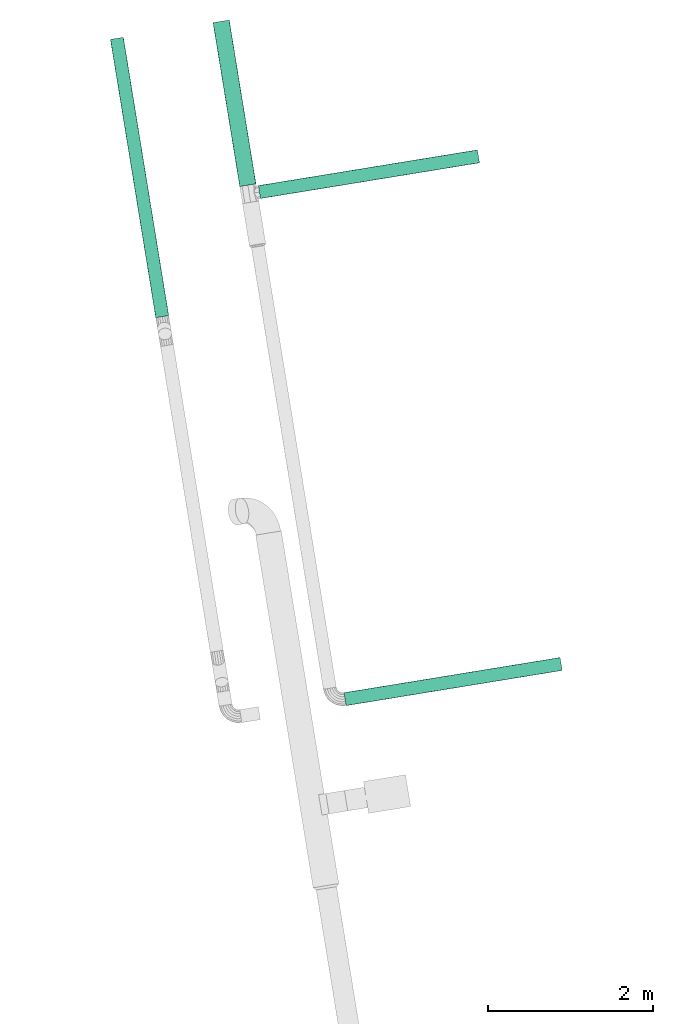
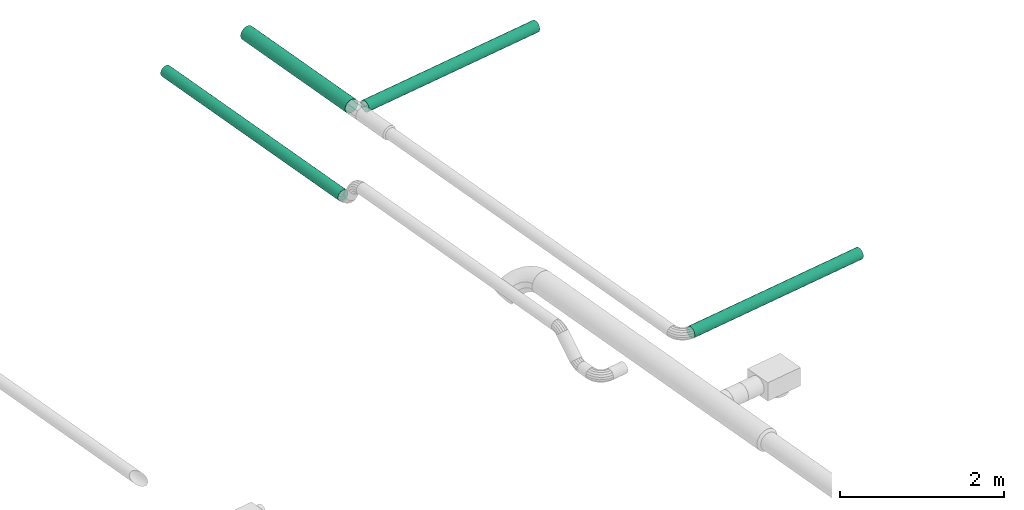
# One storey, part 10 of 19: 4 flow segments.
"""IFC2X3 building model written with IfcOpenShell, lengths in millimetres."""

import ifcopenshell
import ifcopenshell.guid

model = None  # the IFC model being written
_history = None  # IfcOwnerHistory: only IFC2X3 demands one
_inside = {}  # id of a spatial element -> (the spatial element, [elements in it])
_under = {}  # id of a project, library or spatial element -> (it, [spatial elements below it])
_declared = {}  # id of a project -> (the project, [libraries it declares])
_typed = {}  # id of a type object -> (the type object, [elements of that type])
_made_of = {}  # id of a material, layer set ... -> (it, [elements and type objects made of it])


def new_model(schema):
    """Start an empty IFC model of exactly this schema.

    Asked for "IFC4X3", IfcOpenShell would pick the latest addendum, in which some entities
    have other attributes; the version numbers below select the first issue.
    IFC2X3 requires an IfcOwnerHistory on every rooted entity: one is made here for all.
    """
    global model, _history
    if schema == "IFC4X3":
        model = ifcopenshell.file(schema_version=(4, 3, 0, 0))
    else:
        model = ifcopenshell.file(schema=schema)
    _inside.clear()
    _under.clear()
    _declared.clear()
    _typed.clear()
    _made_of.clear()
    _history = None
    if model.schema == "IFC2X3":
        org = make("IfcOrganization", Name="unknown")
        user = make(
            "IfcPersonAndOrganization",
            ThePerson=make("IfcPerson", FamilyName="unknown"),
            TheOrganization=org,
        )
        app = make(
            "IfcApplication",
            ApplicationDeveloper=org,
            Version="unknown",
            ApplicationFullName="unknown",
            ApplicationIdentifier="unknown",
        )
        _history = make(
            "IfcOwnerHistory",
            OwningUser=user,
            OwningApplication=app,
            ChangeAction="ADDED",
            CreationDate=0,
        )
    return model


def make(cls, **values):
    """One entity of the class cls with the attributes given. An attribute that is None is left unset."""
    return model.create_entity(
        cls, **{name: value for name, value in values.items() if value is not None}
    )


def entity(cls, *values):
    """Any entity or typed value of the class cls, its attributes in the order of the schema. None: left unset."""
    e = model.create_entity(cls)
    for i, value in enumerate(values):
        if value is not None:
            e[i] = value
    return e


def rooted(cls, **values):
    """An entity with a GlobalId (a new one), such as an element, a storey or a relation."""
    return make(cls, GlobalId=ifcopenshell.guid.new(), OwnerHistory=_history, **values)


def si_unit(unit_type, name, prefix=None):
    """IfcSIUnit, for example si_unit("LENGTHUNIT", "METRE", prefix="MILLI")."""
    return make("IfcSIUnit", UnitType=unit_type, Prefix=prefix, Name=name)


def converted_unit(unit_type, name, factor, base, dimensions=None, offset=None):
    """IfcConversionBasedUnit, such as the inch: factor (a typed value) times the base unit."""
    return make(
        "IfcConversionBasedUnit"
        if offset is None
        else "IfcConversionBasedUnitWithOffset",
        ConversionOffset=offset,
        Dimensions=None
        if dimensions is None
        else entity("IfcDimensionalExponents", *dimensions),
        UnitType=unit_type,
        Name=name,
        ConversionFactor=make(
            "IfcMeasureWithUnit", ValueComponent=factor, UnitComponent=base
        ),
    )


def derived_unit(unit_type, elements):
    """IfcDerivedUnit: a product of units, each with its exponent."""
    return make(
        "IfcDerivedUnit",
        Elements=[
            make("IfcDerivedUnitElement", Unit=unit, Exponent=power)
            for unit, power in elements
        ],
        UnitType=unit_type,
    )


def assignment(units):
    """IfcUnitAssignment: the units of a project."""
    return None if units is None else make("IfcUnitAssignment", Units=units)


def point(xyz):
    """IfcCartesianPoint."""
    return None if xyz is None else make("IfcCartesianPoint", Coordinates=xyz)


def direction(xyz):
    """IfcDirection."""
    return None if xyz is None else make("IfcDirection", DirectionRatios=xyz)


def frame(location, z_axis=None, x_axis=None):
    """IfcAxis2Placement3D, a coordinate frame: its origin and axes. An axis left out is left unset."""
    return make(
        "IfcAxis2Placement3D",
        Location=point(location),
        Axis=direction(z_axis),
        RefDirection=direction(x_axis),
    )


def origin():
    """The frame at (0, 0, 0) with its axes left unset."""
    return frame((0.0, 0.0, 0.0))


def origin_with_axes():
    """The frame at (0, 0, 0) with the z axis (0, 0, 1) and the x axis (1, 0, 0) written out."""
    return frame((0.0, 0.0, 0.0), z_axis=(0.0, 0.0, 1.0), x_axis=(1.0, 0.0, 0.0))


def place(relative_to, where):
    """IfcLocalPlacement: puts the frame where relative to a parent placement (None: the world)."""
    return make(
        "IfcLocalPlacement", PlacementRelTo=relative_to, RelativePlacement=where
    )


def context(
    kind, dimensions, precision=None, world=None, true_north=None, identifier=None
):
    """IfcGeometricRepresentationContext, for example the 3D "Model" context."""
    return make(
        "IfcGeometricRepresentationContext",
        ContextIdentifier=identifier,
        ContextType=kind,
        CoordinateSpaceDimension=dimensions,
        Precision=precision,
        WorldCoordinateSystem=world,
        TrueNorth=true_north,
    )


def subcontext(parent, identifier, kind, view, scale=None):
    """IfcGeometricRepresentationSubContext, for example "Body" below "Model"."""
    return make(
        "IfcGeometricRepresentationSubContext",
        ContextIdentifier=identifier,
        ContextType=kind,
        ParentContext=parent,
        TargetScale=scale,
        TargetView=view,
    )


def project(units=None, contexts=None):
    """IfcProject with its units and contexts."""
    return rooted(
        "IfcProject",
        Name="project",
        RepresentationContexts=contexts,
        UnitsInContext=assignment(units),
    )


def spatial(cls, under=None, at=None, **own):
    """A site, building, storey or space (cls), placed at a placement, below another one or the project."""
    s = rooted(cls, ObjectPlacement=at, **own)
    if under is not None:
        _under.setdefault(under.id(), (under, []))[1].append(s)
    return s


def faces_of(points, faces, orient=None, outer=None):
    """IfcFace entities. A face is a list of loops; a loop is a list of indices into points, from 0.

    orient and outer hold one flag for each loop. By default every Orientation is true, the
    first loop of a face is its IfcFaceOuterBound and the others are IfcFaceBound.
    """
    made = []
    for i, loops in enumerate(faces):
        bounds = []
        for j, loop in enumerate(loops):
            is_outer = j == 0 if outer is None else outer[i][j]
            bounds.append(
                make(
                    "IfcFaceOuterBound" if is_outer else "IfcFaceBound",
                    Bound=make("IfcPolyLoop", Polygon=[points[k] for k in loop]),
                    Orientation=True if orient is None else orient[i][j],
                )
            )
        made.append(make("IfcFace", Bounds=bounds))
    return made


def faceted_brep(points, faces, orient=None, outer=None, voids=None):
    """IfcFacetedBrep: a solid bounded by flat faces; with voids (closed shells), ...WithVoids."""
    shared = [point(p) for p in points]
    hull = make("IfcClosedShell", CfsFaces=faces_of(shared, faces, orient, outer))
    if voids is None:
        return make("IfcFacetedBrep", Outer=hull)
    return make(
        "IfcFacetedBrepWithVoids",
        Outer=hull,
        Voids=[
            make(cls, CfsFaces=faces_of(shared, fs, o, b)) for cls, fs, o, b in voids
        ],
    )


def shape(context_of_items, identifier, shape_type, items):
    """IfcShapeRepresentation: the items that make up one representation, for example the "Body"."""
    return make(
        "IfcShapeRepresentation",
        ContextOfItems=context_of_items,
        RepresentationIdentifier=identifier,
        RepresentationType=shape_type,
        Items=items,
    )


def material(Name=None, Category=None):
    """IfcMaterial."""
    return make("IfcMaterial", Name=Name, Category=Category)


def made_of(thing, what):
    """Note that an element or type object is made of a material, layer set ...; save() writes the relation."""
    if what is not None:
        _made_of.setdefault(what.id(), (what, []))[1].append(thing)
    return thing


def type_object(cls, material=None, **own):
    """A type object (cls), such as IfcWallType, which elements share."""
    return made_of(rooted(cls, **own), material)


def element(
    cls,
    number,
    at=None,
    inside=None,
    cuts=None,
    type_object=None,
    material=None,
    context=None,
    identifier="Body",
    shape_type=None,
    held_by="IfcProductDefinitionShape",
    body=None,
    shapes=None,
    **own,
):
    """One element of the class cls, such as IfcWall. Its Tag is "e" and its number.

    at: its placement. inside: the storey or other place that contains it. cuts: it is an
    opening in that element (IfcRelVoidsElement). A single representation is given by context,
    identifier, shape_type and body (its items); several are given by shapes. held_by: the class
    of the entity that holds the representations. save() writes the other relations.
    """
    e = rooted(cls, Tag="e%d" % number, ObjectPlacement=at, **own)
    if body is not None:
        shapes = [shape(context, identifier, shape_type, body)]
    if shapes is not None:
        e.Representation = make(held_by, Representations=shapes)
    if inside is not None:
        _inside.setdefault(inside.id(), (inside, []))[1].append(e)
    if cuts is not None:
        rooted(
            "IfcRelVoidsElement", RelatingBuildingElement=cuts, RelatedOpeningElement=e
        )
    if type_object is not None:
        _typed.setdefault(type_object.id(), (type_object, []))[1].append(e)
    return made_of(e, material)


def aggregate(whole, parts):
    """IfcRelAggregates: a whole, such as a stair, and the parts it consists of."""
    return rooted("IfcRelAggregates", RelatingObject=whole, RelatedObjects=parts)


def save(model, path):
    """Write the relations noted so far, then the file.

    IfcRelAggregates (storeys below a building ...), IfcRelContainedInSpatialStructure (elements
    in a storey), IfcRelDefinesByType, IfcRelAssociatesMaterial and IfcRelDeclares: one each for
    every whole, place, type object, material and project.
    """
    for whole, parts in _under.values():
        aggregate(whole, parts)
    for where, things in _inside.values():
        rooted(
            "IfcRelContainedInSpatialStructure",
            RelatedElements=things,
            RelatingStructure=where,
        )
    for kind, things in _typed.values():
        rooted("IfcRelDefinesByType", RelatedObjects=things, RelatingType=kind)
    for what, things in _made_of.values():
        rooted("IfcRelAssociatesMaterial", RelatedObjects=things, RelatingMaterial=what)
    for by, libraries in _declared.values():
        rooted("IfcRelDeclares", RelatingContext=by, RelatedDefinitions=libraries)
    model.write(path)


model = new_model("IFC2X3")

# Units and contexts
model_context = context("Model", 3, precision=0.01, world=origin(), true_north=direction((6.12323399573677e-17, 1.0)))
plan_context = context("Plan", 3, precision=1e-05, world=origin_with_axes())
body_context = subcontext(model_context, "Body", "Model", "MODEL_VIEW")
ifc_project = project(units=[converted_unit("PLANEANGLEUNIT", "DEGREE", entity("IfcPositiveLengthMeasure", 0.0174532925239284), si_unit("PLANEANGLEUNIT", "RADIAN"), dimensions=[0, 0, 0, 0, 0, 0, 0]), si_unit("AREAUNIT", "SQUARE_METRE"), si_unit("LENGTHUNIT", "METRE", prefix="MILLI"), si_unit("MASSUNIT", "GRAM", prefix="KILO"), si_unit("POWERUNIT", "WATT"), si_unit("PRESSUREUNIT", "PASCAL", prefix="KILO"), si_unit("FORCEUNIT", "NEWTON", prefix="KILO"), si_unit("ELECTRICVOLTAGEUNIT", "VOLT"), si_unit("ELECTRICCURRENTUNIT", "AMPERE"), si_unit("THERMODYNAMICTEMPERATUREUNIT", "DEGREE_CELSIUS"), si_unit("TIMEUNIT", "SECOND"), si_unit("VOLUMEUNIT", "CUBIC_METRE"), derived_unit("LINEARVELOCITYUNIT", [(si_unit("LENGTHUNIT", "METRE"), 1), (si_unit("TIMEUNIT", "SECOND"), -1)]), derived_unit("VOLUMETRICFLOWRATEUNIT", [(si_unit("VOLUMEUNIT", "CUBIC_METRE"), 1), (si_unit("TIMEUNIT", "SECOND"), -1)]), derived_unit("THERMALTRANSMITTANCEUNIT", [(si_unit("POWERUNIT", "WATT"), 1), (si_unit("THERMODYNAMICTEMPERATUREUNIT", "KELVIN"), -1), (si_unit("AREAUNIT", "SQUARE_METRE"), -1)]), derived_unit("SOUNDPRESSUREUNIT", [(si_unit("PRESSUREUNIT", "PASCAL"), 1)])], contexts=[model_context, plan_context])

# Site, building, storey
site_placement = place(None, frame((5.09380697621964e-08, 5.80416781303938e-08, 0.0), z_axis=(0.0, 0.0, 1.0), x_axis=(-0.160806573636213, 0.986985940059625, 0.0)))
site = spatial("IfcSite", under=ifc_project, at=site_placement, Name="Default", CompositionType="ELEMENT")
building_placement = place(site_placement, frame((0.0, 0.0, 0.0), z_axis=(0.0, 0.0, 1.0), x_axis=(1.0, -2.77555756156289e-17, 0.0)))
building = spatial("IfcBuilding", under=site, at=building_placement, Name="Bygning (endres i Project Information)", CompositionType="ELEMENT")
storey_placement = place(building_placement, frame((0.0, 0.0, 51360.0000000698), z_axis=(0.0, 0.0, 1.0), x_axis=(1.0, -2.77555756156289e-17, 0.0)))
storey = spatial("IfcBuildingStorey", under=building, at=storey_placement, Name="H01-Nivå D+0,36", CompositionType="ELEMENT", Elevation=51360.0000000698)

# Flow segments
ifc_material = material(Name="3601.001 Tilluft")
duct_segment_type = type_object("IfcDuctSegmentType", Name="Round Duct:Sirkulær kanal", PredefinedType="NOTDEFINED", material=ifc_material)
flow_segment_1_placement = place(storey_placement, frame((0.0, 0.0, 0.0), z_axis=(0.0, 0.0, 1.0), x_axis=(1.0, -2.77555756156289e-17, 0.0)))
element("IfcFlowSegment", 1, at=flow_segment_1_placement, inside=storey, type_object=duct_segment_type, Name="Round Duct:Sirkulær kanal", ObjectType="Round Duct:Sirkulær kanal", context=body_context, shape_type="Brep", body=[
    faceted_brep([(1016638.36764302, -392572.681756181, 3513.89185423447), (1016638.36764302, -392573.897135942, 3500.0), (1013229.23174799, -392573.897135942, 3500.0), (1013229.23174799, -392572.681756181, 3513.89185423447), (1016638.36764302, -392572.681756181, 3486.10814576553), (1013229.23174799, -392572.681756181, 3486.10814576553), (1016638.36764302, -392569.072545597, 3472.63838849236), (1013229.23174799, -392569.072545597, 3472.63838849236), (1016638.36764302, -392563.179168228, 3459.9999999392), (1013229.23174799, -392563.179168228, 3459.9999999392), (1016638.36764302, -392555.180691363, 3448.57699114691), (1013229.23174799, -392555.180691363, 3448.57699114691), (1016638.36764302, -392545.320144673, 3438.71644445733), (1013229.23174799, -392545.320144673, 3438.71644445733), (1016638.36764302, -392533.897135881, 3430.71796759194), (1013229.23174799, -392533.897135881, 3430.71796759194), (1016638.36764302, -392521.258747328, 3424.82459022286), (1013229.23174799, -392521.258747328, 3424.82459022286), (1016638.36764302, -392507.788990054, 3421.21537963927), (1013229.23174799, -392507.788990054, 3421.21537963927), (1016638.36764302, -392493.89713582, 3419.9999998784), (1013229.23174799, -392493.89713582, 3419.9999998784), (1016638.36764302, -392480.005281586, 3421.21537963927), (1013229.23174799, -392480.005281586, 3421.21537963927), (1016638.36764302, -392466.535524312, 3424.82459022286), (1013229.23174799, -392466.535524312, 3424.82459022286), (1016638.36764302, -392453.897135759, 3430.71796759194), (1013229.23174799, -392453.897135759, 3430.71796759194), (1016638.36764302, -392442.474126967, 3438.71644445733), (1013229.23174799, -392442.474126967, 3438.71644445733), (1016638.36764302, -392432.613580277, 3448.57699114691), (1013229.23174799, -392432.613580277, 3448.57699114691), (1016638.36764302, -392424.615103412, 3459.9999999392), (1013229.23174799, -392424.615103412, 3459.9999999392), (1016638.36764302, -392418.721726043, 3472.63838849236), (1013229.23174799, -392418.721726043, 3472.63838849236), (1016638.36764302, -392415.112515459, 3486.10814576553), (1013229.23174799, -392415.112515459, 3486.10814576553), (1016638.36764302, -392413.897135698, 3500.0), (1013229.23174799, -392413.897135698, 3500.0), (1016638.36764302, -392415.112515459, 3513.89185423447), (1013229.23174799, -392415.112515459, 3513.89185423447), (1016638.36764302, -392418.721726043, 3527.36161150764), (1013229.23174799, -392418.721726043, 3527.36161150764), (1016638.36764302, -392424.615103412, 3540.0000000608), (1013229.23174799, -392424.615103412, 3540.0000000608), (1016638.36764302, -392432.613580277, 3551.42300885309), (1013229.23174799, -392432.613580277, 3551.42300885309), (1016638.36764302, -392442.474126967, 3561.28355554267), (1013229.23174799, -392442.474126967, 3561.28355554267), (1016638.36764302, -392453.897135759, 3569.28203240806), (1013229.23174799, -392453.897135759, 3569.28203240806), (1016638.36764302, -392466.535524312, 3575.17540977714), (1013229.23174799, -392466.535524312, 3575.17540977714), (1016638.36764302, -392480.005281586, 3578.78462036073), (1013229.23174799, -392480.005281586, 3578.78462036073), (1016638.36764302, -392493.89713582, 3580.0000001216), (1013229.23174799, -392493.89713582, 3580.0000001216), (1016638.36764302, -392507.788990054, 3578.78462036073), (1013229.23174799, -392507.788990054, 3578.78462036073), (1016638.36764302, -392521.258747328, 3575.17540977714), (1013229.23174799, -392521.258747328, 3575.17540977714), (1016638.36764302, -392533.897135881, 3569.28203240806), (1013229.23174799, -392533.897135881, 3569.28203240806), (1016638.36764302, -392545.320144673, 3561.28355554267), (1013229.23174799, -392545.320144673, 3561.28355554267), (1016638.36764302, -392555.180691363, 3551.42300885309), (1013229.23174799, -392555.180691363, 3551.42300885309), (1016638.36764302, -392563.179168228, 3540.0000000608), (1013229.23174799, -392563.179168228, 3540.0000000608), (1016638.36764302, -392569.072545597, 3527.36161150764), (1013229.23174799, -392569.072545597, 3527.36161150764)], [[[0, 1, 2, 3]], [[1, 4, 5, 2]], [[4, 6, 7, 5]], [[6, 8, 9, 7]], [[8, 10, 11, 9]], [[10, 12, 13, 11]], [[12, 14, 15, 13]], [[14, 16, 17, 15]], [[16, 18, 19, 17]], [[18, 20, 21, 19]], [[20, 22, 23, 21]], [[22, 24, 25, 23]], [[24, 26, 27, 25]], [[26, 28, 29, 27]], [[28, 30, 31, 29]], [[30, 32, 33, 31]], [[32, 34, 35, 33]], [[34, 36, 37, 35]], [[36, 38, 39, 37]], [[38, 40, 41, 39]], [[40, 42, 43, 41]], [[42, 44, 45, 43]], [[44, 46, 47, 45]], [[46, 48, 49, 47]], [[48, 50, 51, 49]], [[50, 52, 53, 51]], [[52, 54, 55, 53]], [[54, 56, 57, 55]], [[56, 58, 59, 57]], [[58, 60, 61, 59]], [[60, 62, 63, 61]], [[62, 64, 65, 63]], [[64, 66, 67, 65]], [[66, 68, 69, 67]], [[68, 70, 71, 69]], [[70, 0, 3, 71]], [[3, 2, 5, 7, 9, 11, 13, 15, 17, 19, 21, 23, 25, 27, 29, 31, 33, 35, 37, 39, 41, 43, 45, 47, 49, 51, 53, 55, 57, 59, 61, 63, 65, 67, 69, 71]], [[70, 68, 66, 64, 62, 60, 58, 56, 54, 52, 50, 48, 46, 44, 42, 40, 38, 36, 34, 32, 30, 28, 26, 24, 22, 20, 18, 16, 14, 12, 10, 8, 6, 4, 1, 0]]], orient=[[False], [False], [False], [False], [False], [False], [False], [False], [False], [False], [False], [False], [False], [False], [False], [False], [False], [False], [False], [False], [False], [False], [False], [False], [False], [False], [False], [False], [False], [False], [False], [False], [False], [False], [False], [False], [False], [False]]),
])
flow_segment_2_placement = place(storey_placement, frame((0.0, 0.0, 0.0), z_axis=(0.0, 0.0, 1.0), x_axis=(1.0, -2.77555756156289e-17, 0.0)))
element("IfcFlowSegment", 2, at=flow_segment_2_placement, inside=storey, type_object=duct_segment_type, Name="Round Duct:Sirkulær kanal", ObjectType="Round Duct:Sirkulær kanal", context=body_context, shape_type="Brep", body=[
    faceted_brep([(1016638.36764302, -393672.606733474, 3482.63518220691), (1016638.36764302, -393671.087508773, 3500.0), (1014631.045205, -393671.087508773, 3500.0), (1014631.045205, -393672.606733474, 3482.63518220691), (1016638.36764302, -393672.606733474, 3517.36481779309), (1014631.045205, -393672.606733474, 3517.36481779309), (1016638.36764302, -393677.118246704, 3534.20201438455), (1014631.045205, -393677.118246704, 3534.20201438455), (1016638.36764302, -393684.484968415, 3550.000000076), (1014631.045205, -393684.484968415, 3550.000000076), (1016638.36764302, -393694.483064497, 3564.27876106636), (1014631.045205, -393694.483064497, 3564.27876106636), (1016638.36764302, -393706.808747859, 3576.60444442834), (1014631.045205, -393706.808747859, 3576.60444442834), (1016638.36764302, -393721.087508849, 3586.60254051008), (1014631.045205, -393721.087508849, 3586.60254051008), (1016638.36764302, -393736.885494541, 3593.96926222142), (1014631.045205, -393736.885494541, 3593.96926222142), (1016638.36764302, -393753.722691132, 3598.48077545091), (1014631.045205, -393753.722691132, 3598.48077545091), (1016638.36764302, -393771.087508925, 3600.000000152), (1014631.045205, -393771.087508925, 3600.000000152), (1016638.36764302, -393788.452326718, 3598.48077545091), (1014631.045205, -393788.452326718, 3598.48077545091), (1016638.36764302, -393805.28952331, 3593.96926222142), (1014631.045205, -393805.28952331, 3593.96926222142), (1016638.36764302, -393821.087509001, 3586.60254051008), (1014631.045205, -393821.087509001, 3586.60254051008), (1016638.36764302, -393835.366269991, 3576.60444442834), (1014631.045205, -393835.366269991, 3576.60444442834), (1016638.36764302, -393847.691953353, 3564.27876106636), (1014631.045205, -393847.691953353, 3564.27876106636), (1016638.36764302, -393857.690049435, 3550.000000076), (1014631.045205, -393857.690049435, 3550.000000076), (1016638.36764302, -393865.056771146, 3534.20201438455), (1014631.045205, -393865.056771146, 3534.20201438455), (1016638.36764302, -393869.568284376, 3517.36481779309), (1014631.045205, -393869.568284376, 3517.36481779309), (1016638.36764302, -393871.087509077, 3500.0), (1014631.045205, -393871.087509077, 3500.0), (1016638.36764302, -393869.568284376, 3482.63518220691), (1014631.045205, -393869.568284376, 3482.63518220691), (1016638.36764302, -393865.056771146, 3465.79798561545), (1014631.045205, -393865.056771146, 3465.79798561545), (1016638.36764302, -393857.690049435, 3449.999999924), (1014631.045205, -393857.690049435, 3449.999999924), (1016638.36764302, -393847.691953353, 3435.72123893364), (1014631.045205, -393847.691953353, 3435.72123893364), (1016638.36764302, -393835.366269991, 3423.39555557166), (1014631.045205, -393835.366269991, 3423.39555557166), (1016638.36764302, -393821.087509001, 3413.39745948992), (1014631.045205, -393821.087509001, 3413.39745948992), (1016638.36764302, -393805.28952331, 3406.03073777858), (1014631.045205, -393805.28952331, 3406.03073777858), (1016638.36764302, -393788.452326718, 3401.51922454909), (1014631.045205, -393788.452326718, 3401.51922454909), (1016638.36764302, -393771.087508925, 3399.999999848), (1014631.045205, -393771.087508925, 3399.999999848), (1016638.36764302, -393753.722691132, 3401.51922454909), (1014631.045205, -393753.722691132, 3401.51922454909), (1016638.36764302, -393736.885494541, 3406.03073777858), (1014631.045205, -393736.885494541, 3406.03073777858), (1016638.36764302, -393721.087508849, 3413.39745948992), (1014631.045205, -393721.087508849, 3413.39745948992), (1016638.36764302, -393706.808747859, 3423.39555557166), (1014631.045205, -393706.808747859, 3423.39555557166), (1016638.36764302, -393694.483064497, 3435.72123893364), (1014631.045205, -393694.483064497, 3435.72123893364), (1016638.36764302, -393684.484968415, 3449.999999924), (1014631.045205, -393684.484968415, 3449.999999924), (1016638.36764302, -393677.118246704, 3465.79798561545), (1014631.045205, -393677.118246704, 3465.79798561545)], [[[0, 1, 2, 3]], [[1, 4, 5, 2]], [[4, 6, 7, 5]], [[6, 8, 9, 7]], [[8, 10, 11, 9]], [[10, 12, 13, 11]], [[12, 14, 15, 13]], [[14, 16, 17, 15]], [[16, 18, 19, 17]], [[18, 20, 21, 19]], [[20, 22, 23, 21]], [[22, 24, 25, 23]], [[24, 26, 27, 25]], [[26, 28, 29, 27]], [[28, 30, 31, 29]], [[30, 32, 33, 31]], [[32, 34, 35, 33]], [[34, 36, 37, 35]], [[36, 38, 39, 37]], [[38, 40, 41, 39]], [[40, 42, 43, 41]], [[42, 44, 45, 43]], [[44, 46, 47, 45]], [[46, 48, 49, 47]], [[48, 50, 51, 49]], [[50, 52, 53, 51]], [[52, 54, 55, 53]], [[54, 56, 57, 55]], [[56, 58, 59, 57]], [[58, 60, 61, 59]], [[60, 62, 63, 61]], [[62, 64, 65, 63]], [[64, 66, 67, 65]], [[66, 68, 69, 67]], [[68, 70, 71, 69]], [[70, 0, 3, 71]], [[3, 2, 5, 7, 9, 11, 13, 15, 17, 19, 21, 23, 25, 27, 29, 31, 33, 35, 37, 39, 41, 43, 45, 47, 49, 51, 53, 55, 57, 59, 61, 63, 65, 67, 69, 71]], [[70, 68, 66, 64, 62, 60, 58, 56, 54, 52, 50, 48, 46, 44, 42, 40, 38, 36, 34, 32, 30, 28, 26, 24, 22, 20, 18, 16, 14, 12, 10, 8, 6, 4, 1, 0]]], orient=[[False], [False], [False], [False], [False], [False], [False], [False], [False], [False], [False], [False], [False], [False], [False], [False], [False], [False], [False], [False], [False], [False], [False], [False], [False], [False], [False], [False], [False], [False], [False], [False], [False], [False], [False], [False], [False], [False]]),
])
flow_segment_3_placement = place(storey_placement, frame((0.0, 0.0, 0.0), z_axis=(0.0, 0.0, 1.0), x_axis=(1.0, -2.77555756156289e-17, 0.0)))
element("IfcFlowSegment", 3, at=flow_segment_3_placement, inside=storey, type_object=duct_segment_type, Name="Round Duct:Sirkulær kanal", ObjectType="Round Duct:Sirkulær kanal", context=body_context, shape_type="Brep", body=[
    faceted_brep([(1014446.54520488, -396579.084056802, 3499.99999999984), (1014447.76058464, -396579.084056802, 3486.10814576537), (1014447.76058464, -393896.087508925, 3486.10814576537), (1014446.54520488, -393896.087508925, 3499.99999999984), (1014447.76058464, -396579.084056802, 3513.89185423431), (1014447.76058464, -393896.087508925, 3513.89185423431), (1014451.36979523, -396579.084056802, 3527.36161150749), (1014451.36979523, -393896.087508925, 3527.36161150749), (1014457.2631726, -396579.084056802, 3540.00000006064), (1014457.2631726, -393896.087508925, 3540.00000006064), (1014465.26164946, -396579.084056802, 3551.42300885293), (1014465.26164946, -393896.087508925, 3551.42300885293), (1014475.12219615, -396579.084056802, 3561.28355554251), (1014475.12219615, -393896.087508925, 3561.28355554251), (1014486.54520494, -396579.084056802, 3569.28203240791), (1014486.54520494, -393896.087508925, 3569.28203240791), (1014499.1835935, -396579.084056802, 3575.17540977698), (1014499.1835935, -393896.087508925, 3575.17540977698), (1014512.65335077, -396579.084056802, 3578.78462036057), (1014512.65335077, -393896.087508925, 3578.78462036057), (1014526.545205, -396579.084056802, 3580.00000012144), (1014526.545205, -393896.087508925, 3580.00000012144), (1014540.43705924, -396579.084056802, 3578.78462036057), (1014540.43705924, -393896.087508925, 3578.78462036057), (1014553.90681651, -396579.084056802, 3575.17540977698), (1014553.90681651, -393896.087508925, 3575.17540977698), (1014566.54520506, -396579.084056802, 3569.28203240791), (1014566.54520506, -393896.087508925, 3569.28203240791), (1014577.96821386, -396579.084056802, 3561.28355554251), (1014577.96821386, -393896.087508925, 3561.28355554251), (1014587.82876055, -396579.084056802, 3551.42300885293), (1014587.82876055, -393896.087508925, 3551.42300885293), (1014595.82723741, -396579.084056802, 3540.00000006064), (1014595.82723741, -393896.087508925, 3540.00000006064), (1014601.72061478, -396579.084056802, 3527.36161150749), (1014601.72061478, -393896.087508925, 3527.36161150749), (1014605.32982536, -396579.084056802, 3513.89185423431), (1014605.32982536, -393896.087508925, 3513.89185423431), (1014606.54520512, -396579.084056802, 3499.99999999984), (1014606.54520512, -393896.087508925, 3499.99999999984), (1014605.32982536, -396579.084056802, 3486.10814576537), (1014605.32982536, -393896.087508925, 3486.10814576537), (1014601.72061478, -396579.084056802, 3472.6383884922), (1014601.72061478, -393896.087508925, 3472.6383884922), (1014595.82723741, -396579.084056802, 3459.99999993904), (1014595.82723741, -393896.087508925, 3459.99999993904), (1014587.82876055, -396579.084056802, 3448.57699114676), (1014587.82876055, -393896.087508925, 3448.57699114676), (1014577.96821386, -396579.084056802, 3438.71644445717), (1014577.96821386, -393896.087508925, 3438.71644445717), (1014566.54520506, -396579.084056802, 3430.71796759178), (1014566.54520506, -393896.087508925, 3430.71796759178), (1014553.90681651, -396579.084056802, 3424.8245902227), (1014553.90681651, -393896.087508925, 3424.8245902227), (1014540.43705924, -396579.084056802, 3421.21537963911), (1014540.43705924, -393896.087508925, 3421.21537963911), (1014526.545205, -396579.084056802, 3419.99999987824), (1014526.545205, -393896.087508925, 3419.99999987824), (1014512.65335077, -396579.084056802, 3421.21537963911), (1014512.65335077, -393896.087508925, 3421.21537963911), (1014499.1835935, -396579.084056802, 3424.8245902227), (1014499.1835935, -393896.087508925, 3424.8245902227), (1014486.54520494, -396579.084056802, 3430.71796759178), (1014486.54520494, -393896.087508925, 3430.71796759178), (1014475.12219615, -396579.084056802, 3438.71644445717), (1014475.12219615, -393896.087508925, 3438.71644445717), (1014465.26164946, -396579.084056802, 3448.57699114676), (1014465.26164946, -393896.087508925, 3448.57699114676), (1014457.2631726, -396579.084056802, 3459.99999993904), (1014457.2631726, -393896.087508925, 3459.99999993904), (1014451.36979523, -396579.084056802, 3472.6383884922), (1014451.36979523, -393896.087508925, 3472.6383884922)], [[[0, 1, 2, 3]], [[4, 0, 3, 5]], [[6, 4, 5, 7]], [[8, 6, 7, 9]], [[10, 8, 9, 11]], [[12, 10, 11, 13]], [[14, 12, 13, 15]], [[16, 14, 15, 17]], [[18, 16, 17, 19]], [[20, 18, 19, 21]], [[22, 20, 21, 23]], [[24, 22, 23, 25]], [[26, 24, 25, 27]], [[28, 26, 27, 29]], [[30, 28, 29, 31]], [[32, 30, 31, 33]], [[34, 32, 33, 35]], [[36, 34, 35, 37]], [[38, 36, 37, 39]], [[40, 38, 39, 41]], [[42, 40, 41, 43]], [[44, 42, 43, 45]], [[46, 44, 45, 47]], [[48, 46, 47, 49]], [[50, 48, 49, 51]], [[52, 50, 51, 53]], [[54, 52, 53, 55]], [[56, 54, 55, 57]], [[58, 56, 57, 59]], [[60, 58, 59, 61]], [[62, 60, 61, 63]], [[64, 62, 63, 65]], [[66, 64, 65, 67]], [[68, 66, 67, 69]], [[70, 68, 69, 71]], [[1, 70, 71, 2]], [[3, 2, 71, 69, 67, 65, 63, 61, 59, 57, 55, 53, 51, 49, 47, 45, 43, 41, 39, 37, 35, 33, 31, 29, 27, 25, 23, 21, 19, 17, 15, 13, 11, 9, 7, 5]], [[4, 6, 8, 10, 12, 14, 16, 18, 20, 22, 24, 26, 28, 30, 32, 34, 36, 38, 40, 42, 44, 46, 48, 50, 52, 54, 56, 58, 60, 62, 64, 66, 68, 70, 1, 0]]], orient=[[False], [False], [False], [False], [False], [False], [False], [False], [False], [False], [False], [False], [False], [False], [False], [False], [False], [False], [False], [False], [False], [False], [False], [False], [False], [False], [False], [False], [False], [False], [False], [False], [False], [False], [False], [False], [False], [False]]),
])
flow_segment_4_placement = place(storey_placement, frame((0.0, 0.0, 0.0), z_axis=(0.0, 0.0, 1.0), x_axis=(1.0, -2.77555756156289e-17, 0.0)))
element("IfcFlowSegment", 4, at=flow_segment_4_placement, inside=storey, type_object=duct_segment_type, Name="Round Duct:Sirkulær kanal", ObjectType="Round Duct:Sirkulær kanal", context=body_context, shape_type="Brep", body=[
    faceted_brep([(1008228.49004614, -396579.084056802, 3499.99999994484), (1008229.7054259, -396579.084056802, 3486.10814571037), (1008229.7054259, -393931.087509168, 3486.10814571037), (1008228.49004614, -393931.087509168, 3499.99999994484), (1008229.7054259, -396579.084056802, 3513.89185417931), (1008229.7054259, -393931.087509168, 3513.89185417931), (1008233.31463648, -396579.084056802, 3527.36161145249), (1008233.31463648, -393931.087509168, 3527.36161145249), (1008239.20801385, -396579.084056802, 3540.00000000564), (1008239.20801385, -393931.087509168, 3540.00000000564), (1008247.20649072, -396579.084056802, 3551.42300879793), (1008247.20649072, -393931.087509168, 3551.42300879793), (1008257.06703741, -396579.084056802, 3561.28355548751), (1008257.06703741, -393931.087509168, 3561.28355548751), (1008268.4900462, -396579.084056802, 3569.28203235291), (1008268.4900462, -393931.087509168, 3569.28203235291), (1008281.12843475, -396579.084056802, 3575.17540972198), (1008281.12843475, -393931.087509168, 3575.17540972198), (1008294.59819203, -396579.084056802, 3578.78462030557), (1008294.59819203, -393931.087509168, 3578.78462030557), (1008308.49004626, -396579.084056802, 3580.00000006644), (1008308.49004626, -393931.087509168, 3580.00000006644), (1008322.38190049, -396579.084056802, 3578.78462030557), (1008322.38190049, -393931.087509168, 3578.78462030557), (1008335.85165777, -396579.084056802, 3575.17540972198), (1008335.85165777, -393931.087509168, 3575.17540972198), (1008348.49004632, -396579.084056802, 3569.28203235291), (1008348.49004632, -393931.087509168, 3569.28203235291), (1008359.91305511, -396579.084056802, 3561.28355548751), (1008359.91305511, -393931.087509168, 3561.28355548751), (1008369.7736018, -396579.084056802, 3551.42300879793), (1008369.7736018, -393931.087509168, 3551.42300879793), (1008377.77207867, -396579.084056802, 3540.00000000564), (1008377.77207867, -393931.087509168, 3540.00000000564), (1008383.66545604, -396579.084056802, 3527.36161145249), (1008383.66545604, -393931.087509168, 3527.36161145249), (1008387.27466662, -396579.084056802, 3513.89185417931), (1008387.27466662, -393931.087509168, 3513.89185417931), (1008388.49004638, -396579.084056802, 3499.99999994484), (1008388.49004638, -393931.087509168, 3499.99999994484), (1008387.27466662, -396579.084056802, 3486.10814571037), (1008387.27466662, -393931.087509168, 3486.10814571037), (1008383.66545604, -396579.084056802, 3472.6383884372), (1008383.66545604, -393931.087509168, 3472.6383884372), (1008377.77207867, -396579.084056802, 3459.99999988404), (1008377.77207867, -393931.087509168, 3459.99999988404), (1008369.7736018, -396579.084056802, 3448.57699109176), (1008369.7736018, -393931.087509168, 3448.57699109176), (1008359.91305511, -396579.084056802, 3438.71644440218), (1008359.91305511, -393931.087509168, 3438.71644440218), (1008348.49004632, -396579.084056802, 3430.71796753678), (1008348.49004632, -393931.087509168, 3430.71796753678), (1008335.85165777, -396579.084056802, 3424.82459016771), (1008335.85165777, -393931.087509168, 3424.82459016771), (1008322.38190049, -396579.084056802, 3421.21537958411), (1008322.38190049, -393931.087509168, 3421.21537958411), (1008308.49004626, -396579.084056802, 3419.99999982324), (1008308.49004626, -393931.087509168, 3419.99999982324), (1008294.59819203, -396579.084056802, 3421.21537958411), (1008294.59819203, -393931.087509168, 3421.21537958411), (1008281.12843475, -396579.084056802, 3424.8245901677), (1008281.12843475, -393931.087509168, 3424.8245901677), (1008268.4900462, -396579.084056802, 3430.71796753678), (1008268.4900462, -393931.087509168, 3430.71796753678), (1008257.06703741, -396579.084056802, 3438.71644440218), (1008257.06703741, -393931.087509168, 3438.71644440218), (1008247.20649072, -396579.084056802, 3448.57699109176), (1008247.20649072, -393931.087509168, 3448.57699109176), (1008239.20801385, -396579.084056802, 3459.99999988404), (1008239.20801385, -393931.087509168, 3459.99999988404), (1008233.31463648, -396579.084056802, 3472.6383884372), (1008233.31463648, -393931.087509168, 3472.6383884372)], [[[0, 1, 2, 3]], [[4, 0, 3, 5]], [[6, 4, 5, 7]], [[8, 6, 7, 9]], [[10, 8, 9, 11]], [[12, 10, 11, 13]], [[14, 12, 13, 15]], [[16, 14, 15, 17]], [[18, 16, 17, 19]], [[20, 18, 19, 21]], [[22, 20, 21, 23]], [[24, 22, 23, 25]], [[26, 24, 25, 27]], [[28, 26, 27, 29]], [[30, 28, 29, 31]], [[32, 30, 31, 33]], [[34, 32, 33, 35]], [[36, 34, 35, 37]], [[38, 36, 37, 39]], [[40, 38, 39, 41]], [[42, 40, 41, 43]], [[44, 42, 43, 45]], [[46, 44, 45, 47]], [[48, 46, 47, 49]], [[50, 48, 49, 51]], [[52, 50, 51, 53]], [[54, 52, 53, 55]], [[56, 54, 55, 57]], [[58, 56, 57, 59]], [[60, 58, 59, 61]], [[62, 60, 61, 63]], [[64, 62, 63, 65]], [[66, 64, 65, 67]], [[68, 66, 67, 69]], [[70, 68, 69, 71]], [[1, 70, 71, 2]], [[3, 2, 71, 69, 67, 65, 63, 61, 59, 57, 55, 53, 51, 49, 47, 45, 43, 41, 39, 37, 35, 33, 31, 29, 27, 25, 23, 21, 19, 17, 15, 13, 11, 9, 7, 5]], [[4, 6, 8, 10, 12, 14, 16, 18, 20, 22, 24, 26, 28, 30, 32, 34, 36, 38, 40, 42, 44, 46, 48, 50, 52, 54, 56, 58, 60, 62, 64, 66, 68, 70, 1, 0]]], orient=[[False], [False], [False], [False], [False], [False], [False], [False], [False], [False], [False], [False], [False], [False], [False], [False], [False], [False], [False], [False], [False], [False], [False], [False], [False], [False], [False], [False], [False], [False], [False], [False], [False], [False], [False], [False], [False], [False]]),
])

save(model, "model.ifc")
